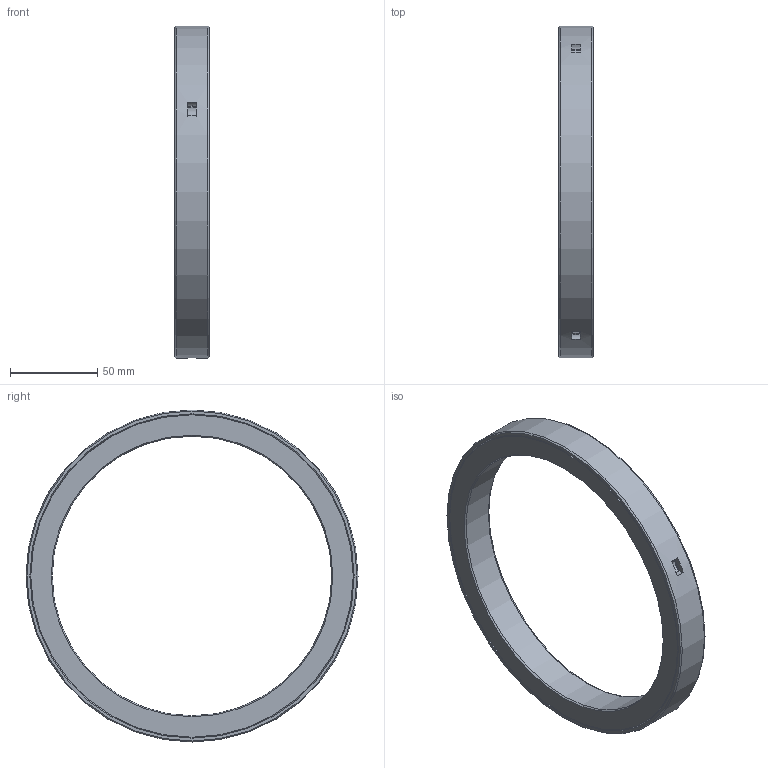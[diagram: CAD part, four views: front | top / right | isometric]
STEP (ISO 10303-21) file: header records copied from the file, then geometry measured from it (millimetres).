
FILE_DESCRIPTION(/* description */ (''),/* implementation_level */ '2;1');
FILE_NAME(/* name */ '301457 M 160x190x20.stp',/* time_stamp */ '2016-12-15T12:22:44+01:00',/* author */ (''),/* organization */ (''),/* preprocessor_version */ 'ST-DEVELOPER v15',/* originating_system */ 'SIEMENS PLM Software NX 8.5',/* authorisation */ '');
FILE_SCHEMA (('CONFIG_CONTROL_DESIGN'));
Length unit declared in the file: millimetre
Products named in the file (1): ATE0000124_01
Bounding box: 20 x 190 x 190 mm (x, y, z)
Volume: 157873.9 mm3; surface area: 60860.4 mm2
Topology: 2 solids, 2 shells, 39 faces, 111 edges, 72 vertices
Faces by surface type: plane 16, cone 12, cylinder 11
Full cylindrical faces by diameter (mm): 160 x1, 190 x1
Entity records: 1274 total; most frequent: CARTESIAN_POINT 264, DIRECTION 202, ORIENTED_EDGE 176, AXIS2_PLACEMENT_3D 98, EDGE_CURVE 88, VERTEX_POINT 64, EDGE_LOOP 60, CIRCLE 58
